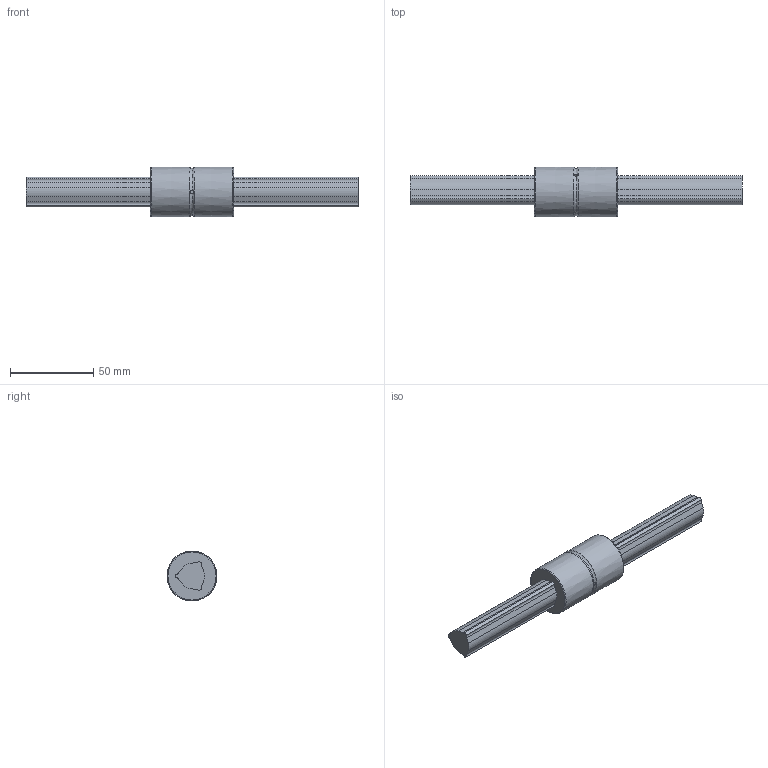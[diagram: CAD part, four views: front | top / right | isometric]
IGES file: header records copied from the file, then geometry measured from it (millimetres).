
Start section: Data from Parasolid IGES Translator 26.0.171, Copyright(c) 2006 Siemens PLM Software. All Rights Reserved.
Global section: file name: LBS20+200L(50750).igs; native system: By Siemens PLM Incorporated; preprocessor: XPlus GENERIC/IGES 26.0.171; author: Noname; organization: Noname; date: 20240523.115819; units: millimetre
Bounding box: 200 x 30 x 30 mm (x, y, z)
Surface area: 20524.6 mm2 (no closed solid volume)
Topology: 0 solids, 0 shells, 63 faces, 338 edges, 331 vertices
Faces by surface type: revolution 41, extrusion 22
